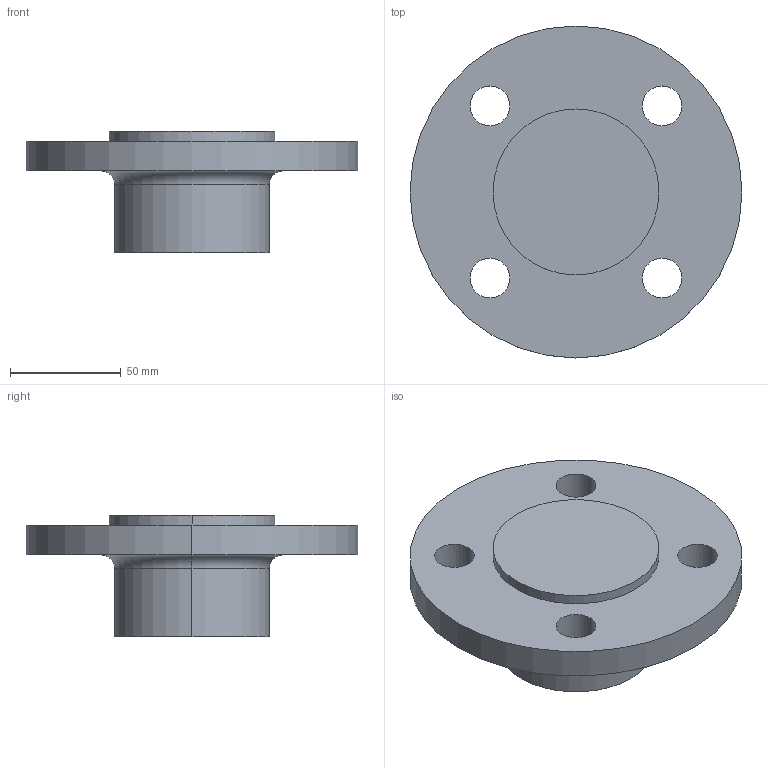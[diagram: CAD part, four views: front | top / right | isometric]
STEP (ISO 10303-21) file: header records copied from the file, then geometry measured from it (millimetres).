
FILE_DESCRIPTION (( 'STEP AP214' ), '1' );
FILE_NAME ('PN40 DN40 Type 21(i) - Type E Face.STEP', '2018-12-30T01:31:50', ( '' ), ( '' ), 'SwSTEP 2.0', 'SolidWorks 2019', '' );
FILE_SCHEMA (( 'AUTOMOTIVE_DESIGN' ));
Length unit declared in the file: millimetre
Products named in the file (1): PN40 DN40 Type 21(i) - Type E Face
Bounding box: 150 x 150 x 55 mm (x, y, z)
Volume: 388860.5 mm3; surface area: 51369.2 mm2
Topology: 1 solids, 1 shells, 20 faces, 46 edges, 30 vertices
Faces by surface type: cylinder 14, plane 4, torus 2
Entity records: 636 total; most frequent: DIRECTION 120, CARTESIAN_POINT 97, ORIENTED_EDGE 92, AXIS2_PLACEMENT_3D 53, EDGE_CURVE 46, CIRCLE 32, EDGE_LOOP 30, VERTEX_POINT 30
